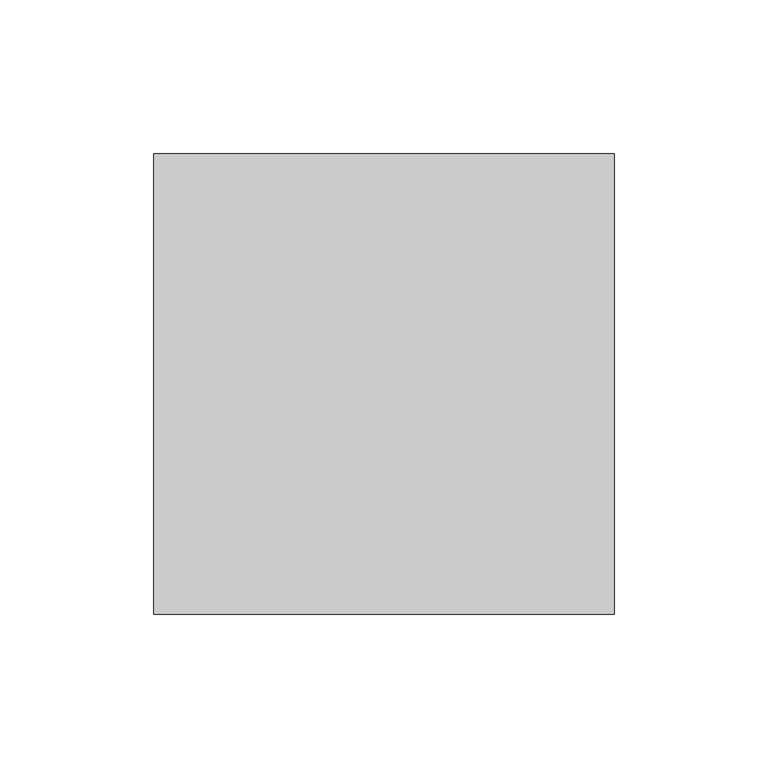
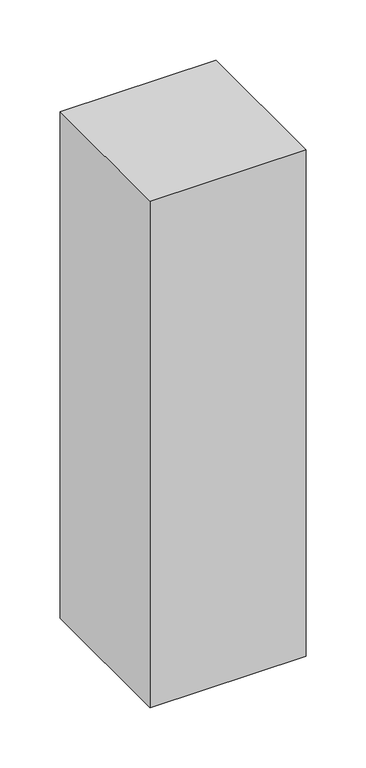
"""IFC4 building model written with IfcOpenShell, lengths in millimetres: proxy geometry, Брус : 150х150."""

from ifc_helpers import new_model, si_unit, origin, origin_with_axes, place, context, project, spatial, polyline, outline, extrude, source, transform, mapped, element, save


def generic_models_37b758cd(model_context):
    return source(origin(), model_context, "Body", "SweptSolid", [
        extrude(outline(polyline([(150.0, 0.0), (0.0, 0.0), (0.0, 150.0), (150.0, 150.0), (150.0, 0.0)])), origin_with_axes(), (0.0, 0.0, 1.0), 515.0),
    ])


if __name__ == "__main__":
    model = new_model("IFC4")
    model_context = context("Model", 3, world=origin())
    ifc_project = project(units=[si_unit("LENGTHUNIT", "METRE", prefix="MILLI")], contexts=[model_context])
    site = spatial("IfcSite", under=ifc_project)
    building = spatial("IfcBuilding", under=site)
    placement = place(None, origin())
    generic_models_shape = generic_models_37b758cd(model_context)
    element("IfcBuildingElementProxy", 1, Name="Брус : 150х150", ObjectType="Брус : 150х150", at=placement, inside=building, context=model_context, shape_type="MappedRepresentation", body=[
        mapped(generic_models_shape, transform((0.0, 0.0, 0.0), x_axis=(1.0, 0.0, 0.0), y_axis=(0.0, 1.0, 0.0), z_axis=(0.0, 0.0, 1.0))),
    ])
    save(model, "model.ifc")
